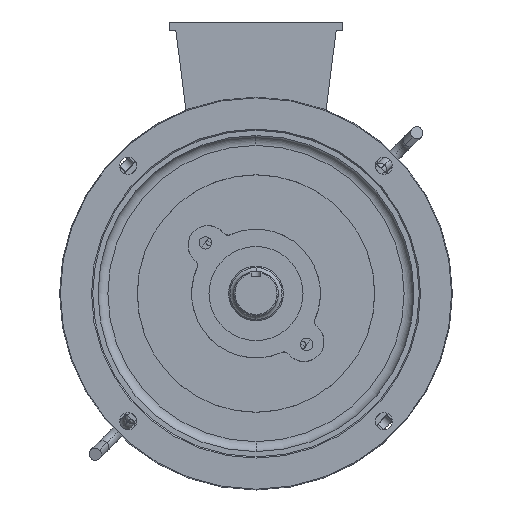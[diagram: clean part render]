
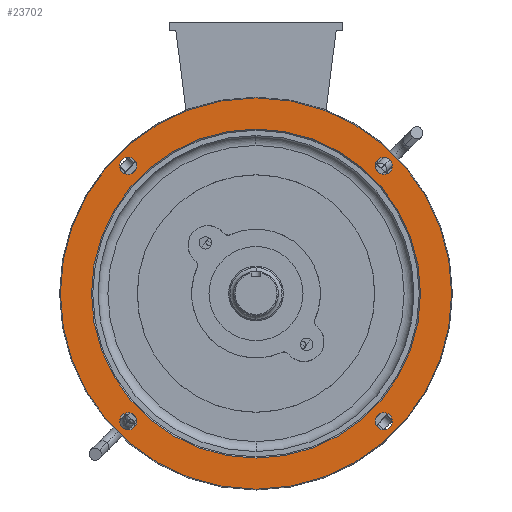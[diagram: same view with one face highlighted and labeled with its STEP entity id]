
A CAD part, front view. The second image highlights one B-rep face of the part: STEP entity #23702.
In plain terms, the highlighted planar face has unit normal (0, -1, 0) as drawn and (0, 0, -1) by its records, which use the part's own axes.
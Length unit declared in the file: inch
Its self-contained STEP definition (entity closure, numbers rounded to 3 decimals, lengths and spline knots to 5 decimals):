
#13080=CARTESIAN_POINT('',(0.,0.,-3.578));
#13081=DIRECTION('',(0.,0.,-1.));
#13082=DIRECTION('',(0.,-1.,0.));
#13083=AXIS2_PLACEMENT_3D('',#13080,#13081,#13082);
#13085=CARTESIAN_POINT('',(0.,0.,-3.578));
#13086=DIRECTION('',(0.,0.,1.));
#13087=DIRECTION('',(0.,-1.,0.));
#13088=AXIS2_PLACEMENT_3D('',#13085,#13086,#13087);
#13090=CARTESIAN_POINT('',(0.,0.,-3.578));
#13091=DIRECTION('',(0.,0.,-1.));
#13092=DIRECTION('',(0.,1.,0.));
#13093=AXIS2_PLACEMENT_3D('',#13090,#13091,#13092);
#13095=CARTESIAN_POINT('',(0.,0.,-3.578));
#13096=DIRECTION('',(0.,0.,-1.));
#13097=DIRECTION('',(0.,-1.,0.));
#13098=AXIS2_PLACEMENT_3D('',#13095,#13096,#13097);
#13100=CARTESIAN_POINT('',(3.22617,3.22617,-3.578));
#13101=DIRECTION('',(0.,0.,1.));
#13102=DIRECTION('',(1.,0.,0.));
#13103=AXIS2_PLACEMENT_3D('',#13100,#13101,#13102);
#13105=CARTESIAN_POINT('',(3.22617,3.22617,-3.578));
#13106=DIRECTION('',(0.,0.,1.));
#13107=DIRECTION('',(-1.,0.,0.));
#13108=AXIS2_PLACEMENT_3D('',#13105,#13106,#13107);
#13110=CARTESIAN_POINT('',(3.22617,-3.22617,-3.578));
#13111=DIRECTION('',(0.,0.,1.));
#13112=DIRECTION('',(1.,0.,0.));
#13113=AXIS2_PLACEMENT_3D('',#13110,#13111,#13112);
#13115=CARTESIAN_POINT('',(3.22617,-3.22617,-3.578));
#13116=DIRECTION('',(0.,0.,1.));
#13117=DIRECTION('',(-1.,0.,0.));
#13118=AXIS2_PLACEMENT_3D('',#13115,#13116,#13117);
#13120=CARTESIAN_POINT('',(-3.22617,-3.22617,-3.578));
#13121=DIRECTION('',(0.,0.,1.));
#13122=DIRECTION('',(1.,0.,0.));
#13123=AXIS2_PLACEMENT_3D('',#13120,#13121,#13122);
#13125=CARTESIAN_POINT('',(-3.22617,-3.22617,-3.578));
#13126=DIRECTION('',(0.,0.,1.));
#13127=DIRECTION('',(-1.,0.,0.));
#13128=AXIS2_PLACEMENT_3D('',#13125,#13126,#13127);
#13130=CARTESIAN_POINT('',(-3.22617,3.22617,-3.578));
#13131=DIRECTION('',(0.,0.,1.));
#13132=DIRECTION('',(1.,0.,0.));
#13133=AXIS2_PLACEMENT_3D('',#13130,#13131,#13132);
#13135=CARTESIAN_POINT('',(-3.22617,3.22617,-3.578));
#13136=DIRECTION('',(0.,0.,1.));
#13137=DIRECTION('',(-1.,0.,0.));
#13138=AXIS2_PLACEMENT_3D('',#13135,#13136,#13137);
#21127=CARTESIAN_POINT('',(0.,4.94293,-3.578));
#21128=VERTEX_POINT('',#21127);
#21129=CARTESIAN_POINT('',(0.,-4.94293,-3.578));
#21130=VERTEX_POINT('',#21129);
#21618=CARTESIAN_POINT('',(3.44517,3.22617,-3.578));
#21619=CARTESIAN_POINT('',(3.00717,3.22617,-3.578));
#21620=VERTEX_POINT('',#21618);
#21621=VERTEX_POINT('',#21619);
#21626=CARTESIAN_POINT('',(3.44517,-3.22617,-3.578));
#21627=CARTESIAN_POINT('',(3.00717,-3.22617,-3.578));
#21628=VERTEX_POINT('',#21626);
#21629=VERTEX_POINT('',#21627);
#21634=CARTESIAN_POINT('',(-3.00717,-3.22617,-3.578));
#21635=CARTESIAN_POINT('',(-3.44517,-3.22617,-3.578));
#21636=VERTEX_POINT('',#21634);
#21637=VERTEX_POINT('',#21635);
#21642=CARTESIAN_POINT('',(-3.00717,3.22617,-3.578));
#21643=CARTESIAN_POINT('',(-3.44517,3.22617,-3.578));
#21644=VERTEX_POINT('',#21642);
#21645=VERTEX_POINT('',#21643);
#21790=CARTESIAN_POINT('',(0.,-4.156,-3.578));
#21791=VERTEX_POINT('',#21790);
#21792=CARTESIAN_POINT('',(0.,4.156,-3.578));
#21793=VERTEX_POINT('',#21792);
#23663=CARTESIAN_POINT('',(0.,0.,-3.578));
#23664=DIRECTION('',(0.,0.,-1.));
#23665=DIRECTION('',(0.,-1.,0.));
#23666=AXIS2_PLACEMENT_3D('',#23663,#23664,#23665);
#23667=PLANE('',#23666);
#23669=ORIENTED_EDGE('',*,*,#23668,.F.);
#23671=ORIENTED_EDGE('',*,*,#23670,.F.);
#23672=EDGE_LOOP('',(#23669,#23671));
#23673=FACE_OUTER_BOUND('',#23672,.F.);
#23674=ORIENTED_EDGE('',*,*,#23645,.T.);
#23675=ORIENTED_EDGE('',*,*,#23656,.F.);
#23676=EDGE_LOOP('',(#23674,#23675));
#23677=FACE_BOUND('',#23676,.F.);
#23679=ORIENTED_EDGE('',*,*,#23678,.F.);
#23681=ORIENTED_EDGE('',*,*,#23680,.F.);
#23682=EDGE_LOOP('',(#23679,#23681));
#23683=FACE_BOUND('',#23682,.F.);
#23685=ORIENTED_EDGE('',*,*,#23684,.F.);
#23687=ORIENTED_EDGE('',*,*,#23686,.F.);
#23688=EDGE_LOOP('',(#23685,#23687));
#23689=FACE_BOUND('',#23688,.F.);
#23691=ORIENTED_EDGE('',*,*,#23690,.F.);
#23693=ORIENTED_EDGE('',*,*,#23692,.F.);
#23694=EDGE_LOOP('',(#23691,#23693));
#23695=FACE_BOUND('',#23694,.F.);
#23697=ORIENTED_EDGE('',*,*,#23696,.F.);
#23699=ORIENTED_EDGE('',*,*,#23698,.F.);
#23700=EDGE_LOOP('',(#23697,#23699));
#23701=FACE_BOUND('',#23700,.F.);
#23702=ADVANCED_FACE('',(#23673,#23677,#23683,#23689,#23695,#23701),#23667,.T.);
#13084=CIRCLE('',#13083,4.156);
#13089=CIRCLE('',#13088,4.156);
#13094=CIRCLE('',#13093,4.94293);
#13099=CIRCLE('',#13098,4.94293);
#13104=CIRCLE('',#13103,0.219);
#13109=CIRCLE('',#13108,0.219);
#13114=CIRCLE('',#13113,0.219);
#13119=CIRCLE('',#13118,0.219);
#13124=CIRCLE('',#13123,0.219);
#13129=CIRCLE('',#13128,0.219);
#13134=CIRCLE('',#13133,0.219);
#13139=CIRCLE('',#13138,0.219);
#23645=EDGE_CURVE('',#21791,#21793,#13084,.T.);
#23656=EDGE_CURVE('',#21791,#21793,#13089,.T.);
#23668=EDGE_CURVE('',#21128,#21130,#13094,.T.);
#23670=EDGE_CURVE('',#21130,#21128,#13099,.T.);
#23678=EDGE_CURVE('',#21620,#21621,#13104,.T.);
#23680=EDGE_CURVE('',#21621,#21620,#13109,.T.);
#23684=EDGE_CURVE('',#21628,#21629,#13114,.T.);
#23686=EDGE_CURVE('',#21629,#21628,#13119,.T.);
#23690=EDGE_CURVE('',#21636,#21637,#13124,.T.);
#23692=EDGE_CURVE('',#21637,#21636,#13129,.T.);
#23696=EDGE_CURVE('',#21644,#21645,#13134,.T.);
#23698=EDGE_CURVE('',#21645,#21644,#13139,.T.);
